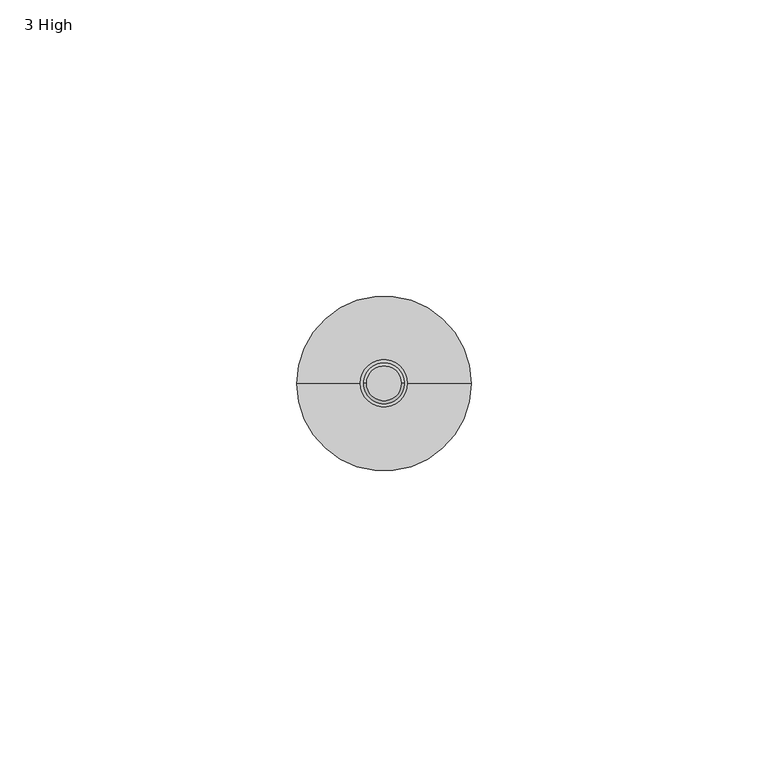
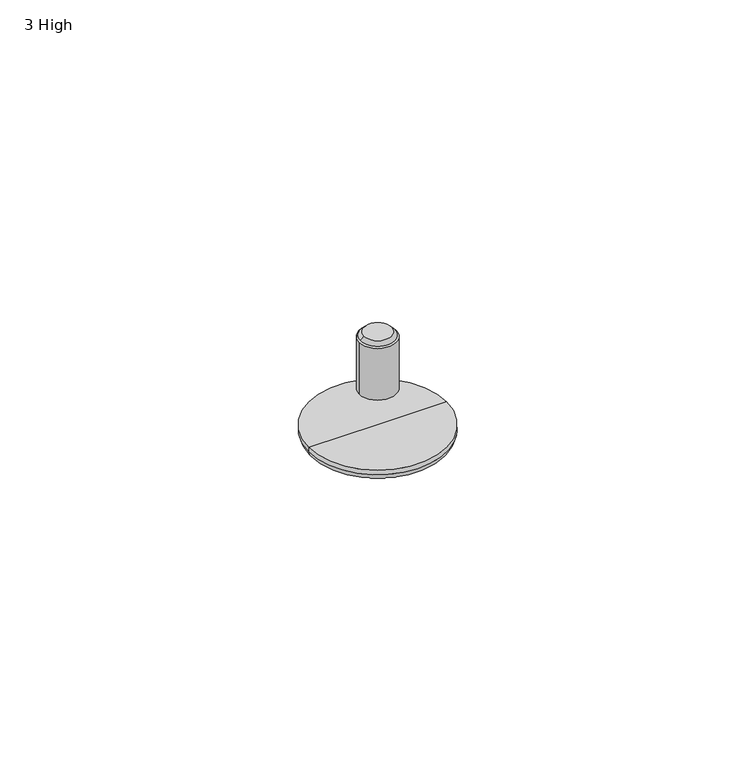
"""IFC4 building model written with IfcOpenShell, lengths in millimetres: furniture geometry, Steelcase Turnstone - Bivi - Storage - Depot : 3 High."""

from ifc_helpers import new_model, si_unit, point, frame, frame_2d, origin, place, context, project, spatial, circle_curve, ellipse_curve, trimmed, segment, composite_curve, outline, extrude, source, transform, mapped, element, save
from ifc_brep_helpers import plane_surface, cylinder_surface, revolved_surface, spline_surface, advanced_brep


def furniture_3_high_59e398f0(model_context):
    return source(origin(), model_context, "Body", "SolidModel", [
        advanced_brep(
        [(65.5310488, -314.3469759, 2.6178944), (50.8029927, -314.3469759, 2.6178944), (36.0749366, -314.3469759, 2.6178944), (65.5310488, -314.3469759, 1.580664), (36.0749366, -314.3469759, 1.580664), (63.9503848, -314.3469759, 0.0), (37.6556006, -314.3469759, 0.0), (50.8029927, -314.3469759, 0.0)],
        [
            (0, 1),
            (1, 2),
            (2, 0, circle_curve(frame((50.8029927, -314.3469759, 2.6178944), z_axis=(0.0, 0.0, 1.0), x_axis=(-1.0, 0.0, 0.0)), 14.7280561)),
            (0, 2, circle_curve(frame((50.8029927, -314.3469759, 2.6178944), z_axis=(0.0, 0.0, 1.0), x_axis=(-1.0, 0.0, 0.0)), 14.7280561)),
            (3, 0),
            (2, 4),
            (4, 3, circle_curve(frame((50.8029927, -314.3469759, 1.580664), z_axis=(0.0, 0.0, 1.0), x_axis=(-1.0, 0.0, 0.0)), 14.7280561)),
            (3, 4, circle_curve(frame((50.8029927, -314.3469759, 1.580664), z_axis=(0.0, 0.0, 1.0), x_axis=(-1.0, 0.0, 0.0)), 14.7280561)),
            (5, 3, circle_curve(frame((63.9503848, -314.3469759, 1.580664), z_axis=(0.0, -1.0, 0.0), x_axis=(-1.0, 0.0, 0.0)), 1.580664)),
            (4, 6, circle_curve(frame((37.6556006, -314.3469759, 1.580664), z_axis=(0.0, -1.0, 0.0), x_axis=(1.0, 0.0, 0.0)), 1.580664)),
            (6, 5, circle_curve(frame((50.8029927, -314.3469759, 0.0), z_axis=(0.0, 0.0, 1.0), x_axis=(-1.0, 0.0, 0.0)), 13.1473921)),
            (5, 6, circle_curve(frame((50.8029927, -314.3469759, 0.0), z_axis=(0.0, 0.0, 1.0), x_axis=(-1.0, 0.0, 0.0)), 13.1473921)),
            (7, 5),
            (6, 7),
        ],
        [
            plane_surface(frame((50.8029927, -314.3469759, 2.6178944), z_axis=(0.0, 0.0, 1.0), x_axis=(-1.0, 0.0, 0.0))),
            cylinder_surface(frame((50.8029927, -314.3469759, 2.6178944), z_axis=(0.0, 0.0, -1.0), x_axis=(-1.0, 0.0, 0.0)), 14.7280561),
            revolved_surface(trimmed(ellipse_curve(frame((37.6556006, -314.3469759, 1.580664), z_axis=(0.0, -1.0, 0.0), x_axis=(1.0, 0.0, 0.0)), 1.580664, 1.580664), [point((36.0749366, -314.3469759, 1.580664))], [point((37.6556006, -314.3469759, 0.0))], True, "CARTESIAN"), (50.8029927, -314.3469759, 2.6178944), (0.0, 0.0, -1.0)),
            plane_surface(frame((50.8029927, -314.3469759, 0.0), z_axis=(0.0, 0.0, -1.0), x_axis=(-1.0, 0.0, 0.0))),
        ],
        [
            (0, [[1, 2, 3]]),
            (0, [[-2, -1, 4]]),
            (1, [[5, -3, 6, 7]]),
            (1, [[-6, -4, -5, 8]]),
            (2, [[9, -7, 10, 11]]),
            (2, [[-10, -8, -9, 12]]),
            (3, [[13, -11, 14]]),
            (3, [[-14, -12, -13]]),
        ],
    ),
        extrude(outline(composite_curve([segment(trimmed(circle_curve(frame_2d((50.7916786, -314.3066921)), 3.9557313), [point((46.8359473, -314.3066921))], [point((54.7474099, -314.3066921))], False, "CARTESIAN"), True, "CONTINUOUS"), segment(trimmed(circle_curve(frame_2d((50.7916786, -314.3066921)), 3.9557313), [point((54.7474099, -314.3066921))], [point((46.8359473, -314.3066921))], False, "CARTESIAN"), True, "CONTINUOUS")], self_intersect=False)), frame((0.0, 0.0, 10.8986525), z_axis=(0.0, 0.0, 1.0), x_axis=(1.0, 0.0, 0.0)), (0.0, 0.0, 1.0), 11.6640053),
        advanced_brep(
        [(46.8582767, -314.3151933, 22.5626578), (54.7482407, -314.3151933, 22.5626578), (47.8550405, -314.3151933, 23.622), (53.7262577, -314.3151933, 23.622)],
        [
            (0, 1, circle_curve(frame((50.8032587, -314.3151933, 22.5626578), z_axis=(0.0, 0.0, -1.0), x_axis=(1.0, 0.0, 0.0)), 3.944982)),
            (1, 0, circle_curve(frame((50.8032587, -314.3151933, 22.5626578), z_axis=(0.0, 0.0, -1.0), x_axis=(1.0, 0.0, 0.0)), 3.944982)),
            (2, 3, circle_curve(frame((50.7906491, -314.3151933, 23.622), z_axis=(0.0, 0.0, 1.0), x_axis=(1.0, 0.0, 0.0)), 2.9356086)),
            (3, 2, circle_curve(frame((50.7906491, -314.3151933, 23.622), z_axis=(0.0, 0.0, 1.0), x_axis=(1.0, 0.0, 0.0)), 2.9356086)),
            (2, 0),
            (1, 3),
        ],
        [
            plane_surface(frame((50.8032587, -314.3151933, 22.5626578), z_axis=(0.0, 0.0, -1.0), x_axis=(0.0, 1.0, 0.0))),
            plane_surface(frame((50.7906491, -314.3151933, 23.622), z_axis=(0.0, 0.0, 1.0), x_axis=(0.0, 1.0, 0.0))),
            spline_surface(1, 2, [[(47.8550405, -314.3151933, 23.622), (47.8550405, -317.2508019, 23.622), (50.7906491, -317.2508019, 23.622), (53.726257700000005, -317.2508019, 23.622), (53.7262577, -314.3151933, 23.622)], [(46.8582767, -314.3151933, 22.5626578), (46.8582767, -318.26017529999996, 22.5626578), (50.8032587, -318.26017529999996, 22.5626578), (54.748240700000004, -318.2601753, 22.5626578), (54.7482407, -314.3151933, 22.5626578)]], [2, 2], [3, 2, 3], [0.0, 1.0], [0.0, 1.0, 2.0], weights=[[1.0, 0.7071067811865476, 1.0, 0.7071067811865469, 1.0], [1.0, 0.7071067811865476, 1.0, 0.7071067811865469, 1.0]]),
            spline_surface(1, 2, [[(53.7262577, -314.3151933, 23.622), (53.7262577, -311.3795847, 23.622), (50.7906491, -311.3795847, 23.622), (47.85504050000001, -311.3795847, 23.622), (47.8550405, -314.3151933, 23.622)], [(54.7482407, -314.3151933, 22.5626578), (54.7482407, -310.3702113, 22.5626578), (50.8032587, -310.3702113, 22.5626578), (46.858276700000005, -310.3702113, 22.5626578), (46.8582767, -314.3151933, 22.5626578)]], [2, 2], [3, 2, 3], [0.0, 1.0], [0.0, 1.0, 2.0], weights=[[1.0, 0.7071067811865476, 1.0, 0.7071067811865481, 1.0], [1.0, 0.7071067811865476, 1.0, 0.7071067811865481, 1.0]]),
        ],
        [
            (0, [[1, 2]]),
            (1, [[3, 4]]),
            (2, [[5, -2, 6, -3]]),
            (3, [[-6, -1, -5, -4]]),
        ],
    ),
    ])


if __name__ == "__main__":
    model = new_model("IFC4")
    model_context = context("Model", 3, world=origin())
    ifc_project = project(units=[si_unit("LENGTHUNIT", "METRE", prefix="MILLI")], contexts=[model_context])
    site = spatial("IfcSite", under=ifc_project)
    building = spatial("IfcBuilding", under=site)
    placement = place(None, origin())
    furniture_3_high_shape = furniture_3_high_59e398f0(model_context)
    element("IfcFurniture", 1, ObjectType="Steelcase Turnstone - Bivi - Storage - Depot : 3 High", at=placement, inside=building, context=model_context, shape_type="MappedRepresentation", body=[
        mapped(furniture_3_high_shape, transform((0.0, 0.0, 0.0), x_axis=(1.0, 0.0, 0.0), y_axis=(0.0, 1.0, 0.0), z_axis=(0.0, 0.0, 1.0))),
    ])
    save(model, "model.ifc")
